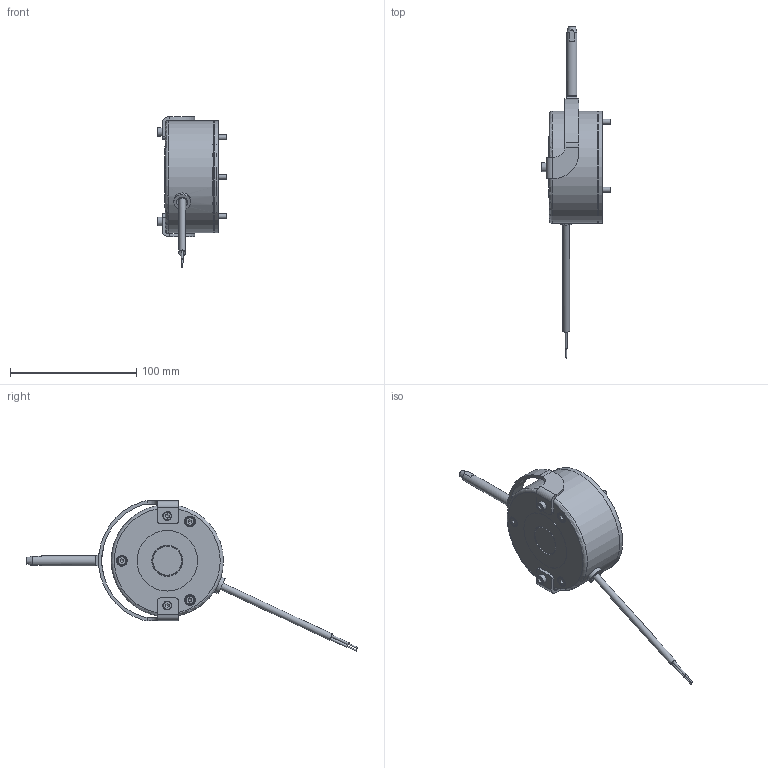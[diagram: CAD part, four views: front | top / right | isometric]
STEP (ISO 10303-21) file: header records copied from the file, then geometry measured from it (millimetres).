
FILE_DESCRIPTION(/* description */ (''),/* implementation_level */ '2;1');
FILE_NAME(/* name */ 'C:\SapWorkDir\Inventor\IP1\ConvertTempPath\5028608_IPT_000.ipt.stp',/* time_stamp */ '2020-09-10T10:51:14+02:00',/* author */ ('STRATE'),/* organization */ (''),/* preprocessor_version */ 'ST-DEVELOPER v17',/* originating_system */ 'Autodesk Inventor 2018',/* authorisation */ '');
FILE_SCHEMA (('AUTOMOTIVE_DESIGN { 1 0 10303 214 3 1 1 }'));
Length unit declared in the file: millimetre
Products named in the file (1): 5028608
Bounding box: 55.5 x 263.21 x 119.15 mm (x, y, z)
Volume: 206031.1 mm3; surface area: 66761.7 mm2
Topology: 4 solids, 4 shells, 388 faces, 1046 edges, 707 vertices
Faces by surface type: cylinder 206, plane 128, cone 31, torus 23
Full cylindrical faces by diameter (mm): 1 x2, 1.85 x2, 3 x1, 4 x5, 4.134 x1, 4.5 x3, 5.3 x1, 6.6 x1, 7 x5, 7.9 x3, 8 x1, 8.6 x3, 13.2 x1, 16 x1, 23.9 x1, 24 x2, 29 x1, 30.8 x1, 31 x1, 39.5 x2, 48 x1, 60 x1, 81 x1, 87 x2, 89 x2
Entity records: 13564 total; most frequent: CARTESIAN_POINT 3165, ORIENTED_EDGE 2088, DIRECTION 2085, EDGE_CURVE 1044, AXIS2_PLACEMENT_3D 844, VERTEX_POINT 707, EDGE_LOOP 455, CIRCLE 455
